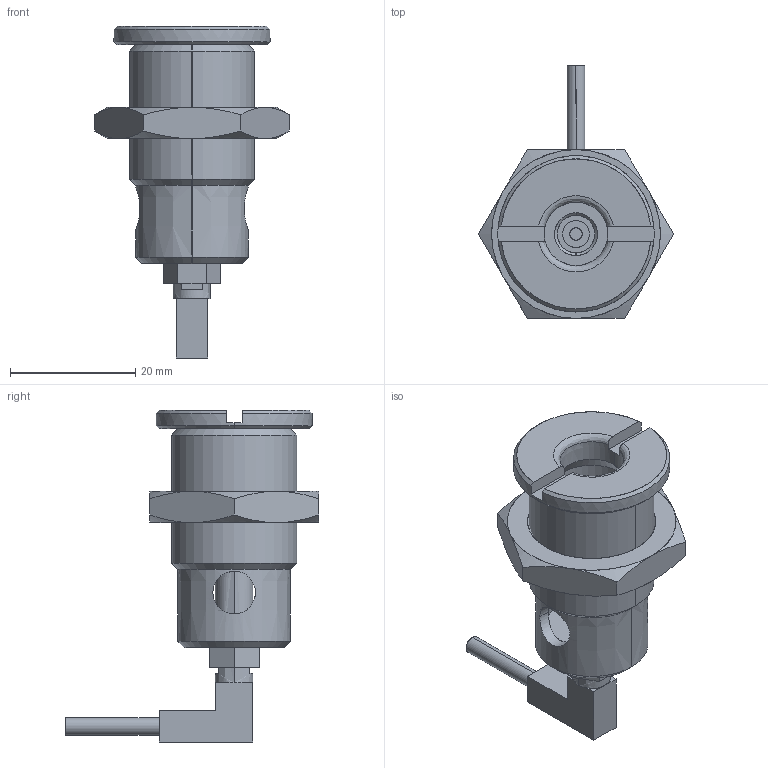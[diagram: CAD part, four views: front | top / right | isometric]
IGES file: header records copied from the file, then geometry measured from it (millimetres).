
Start section: SolidWorks IGES file using analytic representation for surfaces
Global section: file name: Y:\5.更新分\2023年対応\0405_諸々微修正分\QCWE1034-M20-SL\qcwe1034-m20-sl.IGS; native system: SolidWorks 2021; preprocessor: SolidWorks 2021; author: ImaoCorp; date: 230407.105610; units: millimetre
Bounding box: 31.18 x 40.5 x 53.1 mm (x, y, z)
Surface area: 7790.4 mm2 (no closed solid volume)
Topology: 0 solids, 0 shells, 130 faces, 1858 edges, 1858 vertices
Faces by surface type: revolution 72, bspline 58
